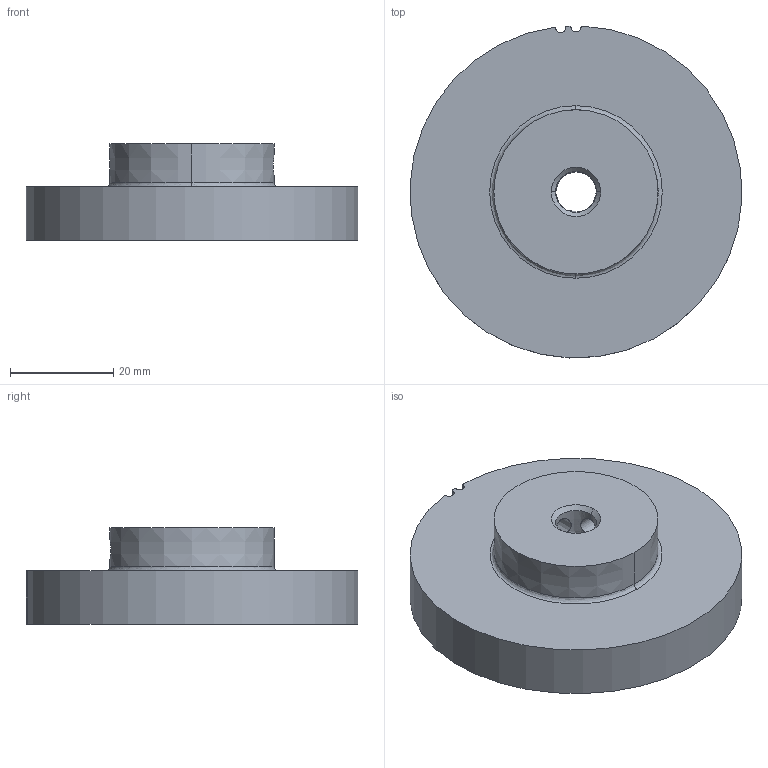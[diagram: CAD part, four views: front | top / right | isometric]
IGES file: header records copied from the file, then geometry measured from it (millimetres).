
Start section:  PTC IGES file: 42006.igs
Global section: file name: 42006.igs; native system: Pro/ENGINEER by Parametric Technology Corporation; preprocessor: 2001430; author: Administrator; organization: Unknown; date: 020621.114012; units: inch
Bounding box: 64.18 x 64.19 x 18.65 mm (x, y, z)
Surface area: 9988.3 mm2 (no closed solid volume)
Topology: 0 solids, 0 shells, 29 faces, 148 edges, 148 vertices
Faces by surface type: revolution 26, bspline 3
